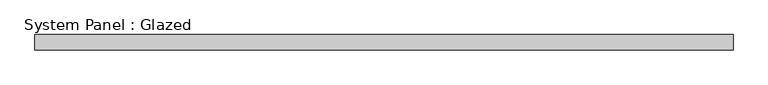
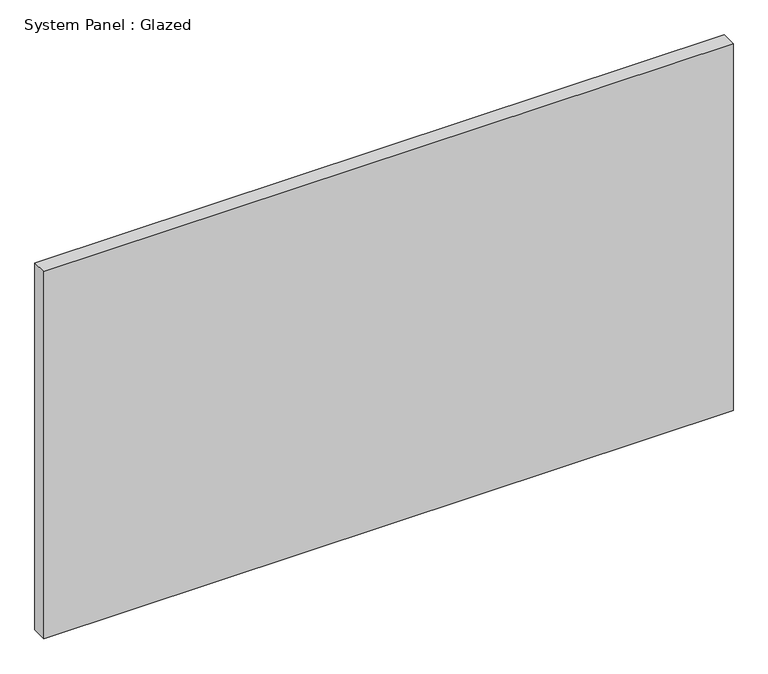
"""IFC4 building model written with IfcOpenShell, lengths in millimetres: plate geometry, System Panel : Glazed."""

from ifc_helpers import new_model, si_unit, origin, origin_with_axes, place, context, project, spatial, polyline, outline, extrude, source, transform, mapped, element, save


def system_panel_glazed_3be6acff(model_context):
    return source(origin(), model_context, "Body", "SweptSolid", [
        extrude(outline(polyline([(577.85, 19.05), (-577.85, 19.05), (-577.85, 44.45), (577.85, 44.45), (577.85, 19.05)])), origin_with_axes(), (0.0, 0.0, 1.0), 650.875),
    ])


if __name__ == "__main__":
    model = new_model("IFC4")
    model_context = context("Model", 3, world=origin())
    ifc_project = project(units=[si_unit("LENGTHUNIT", "METRE", prefix="MILLI")], contexts=[model_context])
    site = spatial("IfcSite", under=ifc_project)
    building = spatial("IfcBuilding", under=site)
    placement = place(None, origin())
    system_panel_glazed_shape = system_panel_glazed_3be6acff(model_context)
    element("IfcPlate", 1, ObjectType="System Panel : Glazed", at=placement, inside=building, context=model_context, shape_type="MappedRepresentation", body=[
        mapped(system_panel_glazed_shape, transform((0.0, 0.0, 0.0), x_axis=(1.0, 0.0, 0.0), y_axis=(0.0, 1.0, 0.0), z_axis=(0.0, 0.0, 1.0))),
    ])
    save(model, "model.ifc")
